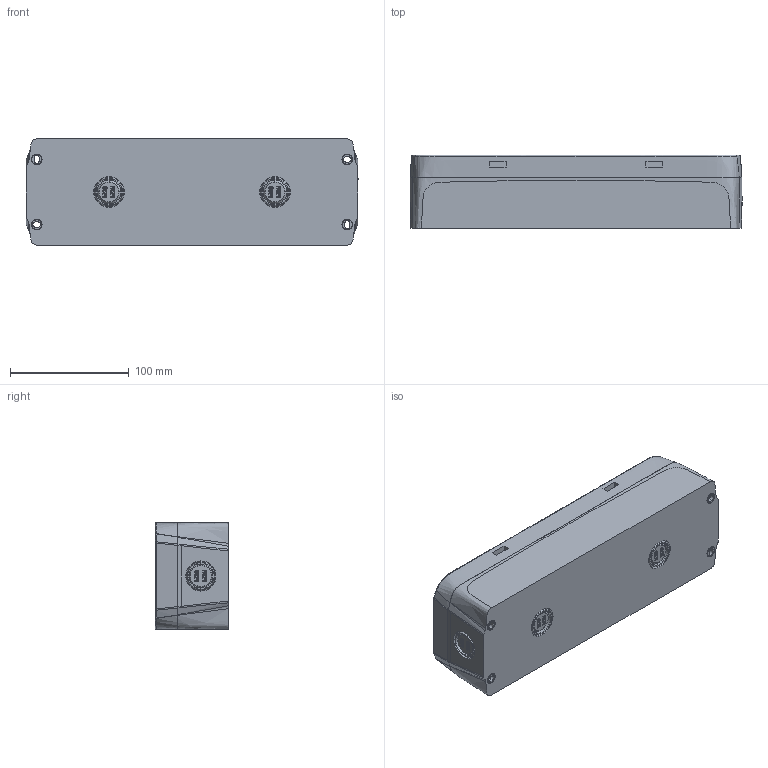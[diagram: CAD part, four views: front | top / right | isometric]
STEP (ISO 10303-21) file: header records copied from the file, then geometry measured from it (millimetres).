
FILE_DESCRIPTION (( 'STEP AP203' ), '1' );
FILE_NAME ('ZF_STEP_EA_37014_A12.step', '2012-12-03T07:55:17', ( 'Pizzato Elettrica' ), ( '' ), 'SwSTEP 2.0', 'SolidWorks 2011', '' );
FILE_SCHEMA (( 'CONFIG_CONTROL_DESIGN' ));
Length unit declared in the file: millimetre
Products named in the file (6): ZF_STEP_EA_37014_A12; tassello_I; tassello_G; telaio_25001; tassello_C; Base_EL_2B1_25201
Assembly tree (9 placements, depth 2):
  ZF_STEP_EA_37014_A12
    Base_EL_2B1_25201
    tassello_I  x2
    tassello_C  x3
    telaio_25001
    tassello_G  x2
Bounding box: 280 x 62 x 90.11 mm (x, y, z)
Volume: 1484820.7 mm3; surface area: 237265.8 mm2
Topology: 9 solids, 9 shells, 725 faces, 1918 edges, 1267 vertices
Faces by surface type: plane 366, bspline 206, cylinder 68, torus 48, cone 24, sphere 13
Entity records: 35768 total; most frequent: CARTESIAN_POINT 19825, ORIENTED_EDGE 3516, DIRECTION 2516, EDGE_CURVE 1758, VERTEX_POINT 1163, LINE 936, VECTOR 936, AXIS2_PLACEMENT_3D 790
